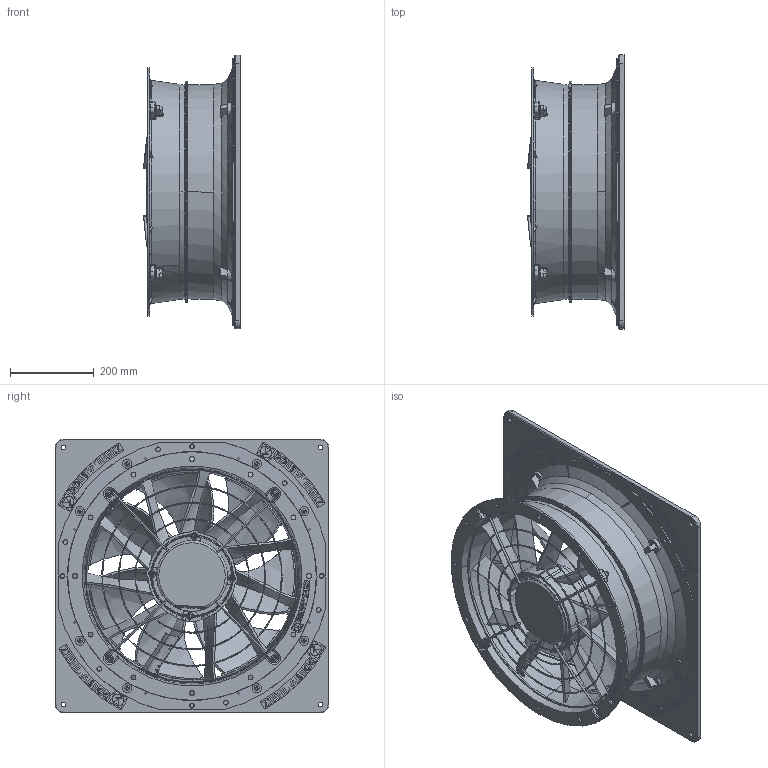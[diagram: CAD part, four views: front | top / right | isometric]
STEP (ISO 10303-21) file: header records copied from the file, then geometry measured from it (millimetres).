
FILE_DESCRIPTION((''),'2;1');
FILE_NAME('19050-QD09-02-05','2014-02-07T',('kraftc'),(''),'PRO/ENGINEER BY PARAMETRIC TECHNOLOGY CORPORATION, 2011490','PRO/ENGINEER BY PARAMETRIC TECHNOLOGY CORPORATION, 2011490','');
FILE_SCHEMA(('AUTOMOTIVE_DESIGN { 1 2 10303 214 0 1 1 1 }'));
Length unit declared in the file: millimetre
Products named in the file (1): 19050-QD09-02-05
Bounding box: 231.09 x 655 x 655 mm (x, y, z)
Volume: 10118336 mm3; surface area: 2336646.9 mm2
Topology: 2 solids, 6 shells, 3926 faces, 10436 edges, 6735 vertices
Faces by surface type: plane 1843, cylinder 824, bspline 614, extrusion 275, torus 166, cone 163, sphere 41
Entity records: 188170 total; most frequent: CARTESIAN_POINT 90541, ORIENTED_EDGE 20872, DIRECTION 16513, EDGE_CURVE 10436, VERTEX_POINT 6735, VECTOR 5681, AXIS2_PLACEMENT_3D 5416, LINE 5406
